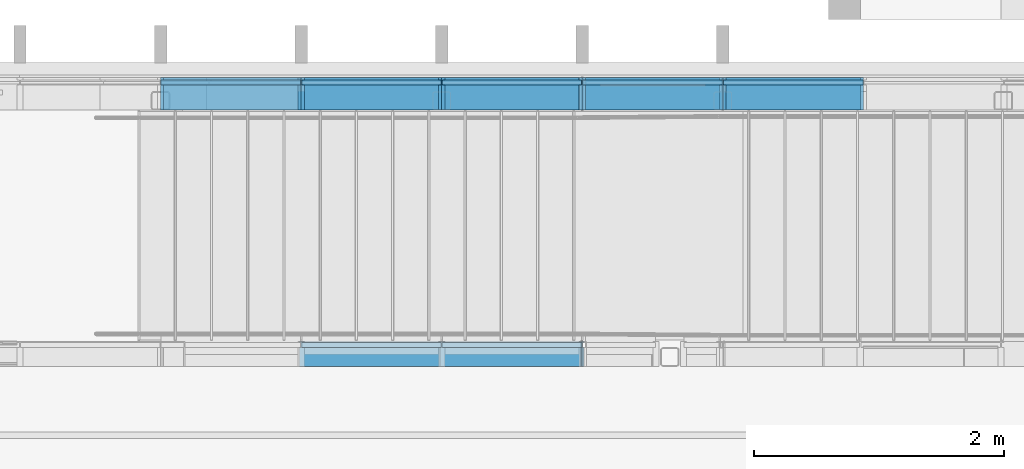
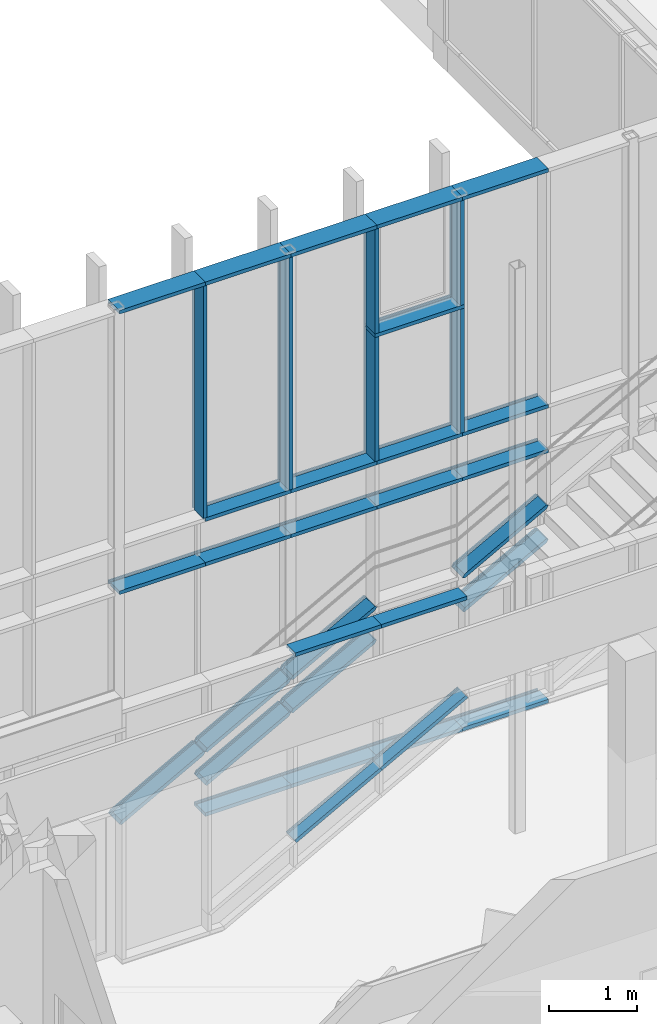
# One storey, part 3 of 301: 36 members, 2 elements without a shape of their own.
"""IFC2X3 building model written with IfcOpenShell, lengths in millimetres."""

from ifc_helpers import new_model, entity, si_unit, converted_unit, derived_unit, money_unit, direction, frame, origin_with_axes, place, context, subcontext, project, spatial, faceted_brep, source, transform, mapped, material, type_object, element, aggregate, save


model = new_model("IFC2X3")

# Units and contexts
model_context = context("Model", 3, precision=0.01, world=origin_with_axes(), true_north=direction((0.0, 1.0)))
body_context = subcontext(model_context, "Body", "Model", "MODEL_VIEW")
ifc_project = project(units=[si_unit("LENGTHUNIT", "METRE", prefix="MILLI"), si_unit("AREAUNIT", "SQUARE_METRE"), si_unit("VOLUMEUNIT", "CUBIC_METRE"), converted_unit("PLANEANGLEUNIT", "DEGREE", entity("IfcPlaneAngleMeasure", 0.0174532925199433), si_unit("PLANEANGLEUNIT", "RADIAN"), dimensions=[0, 0, 0, 0, 0, 0, 0]), money_unit("EUR"), converted_unit("TIMEUNIT", "Year", entity("IfcTimeMeasure", 31557600.0), si_unit("TIMEUNIT", "SECOND"), dimensions=[0, 0, 1, 0, 0, 0, 0]), si_unit("MASSUNIT", "GRAM", prefix="KILO"), si_unit("THERMODYNAMICTEMPERATUREUNIT", "DEGREE_CELSIUS"), si_unit("LUMINOUSINTENSITYUNIT", "LUMEN"), si_unit("ENERGYUNIT", "JOULE", prefix="MEGA"), derived_unit("THERMALCONDUCTANCEUNIT", [(si_unit("POWERUNIT", "WATT"), 1), (si_unit("LENGTHUNIT", "METRE"), -1), (si_unit("THERMODYNAMICTEMPERATUREUNIT", "KELVIN"), -1)]), derived_unit("SPECIFICHEATCAPACITYUNIT", [(si_unit("ENERGYUNIT", "JOULE"), 1), (si_unit("MASSUNIT", "GRAM", prefix="KILO"), -1), (si_unit("THERMODYNAMICTEMPERATUREUNIT", "KELVIN"), -1)]), derived_unit("MASSDENSITYUNIT", [(si_unit("MASSUNIT", "GRAM", prefix="KILO"), 1), (si_unit("VOLUMEUNIT", "CUBIC_METRE"), -1)])], contexts=[model_context])

# Site, building, storey
site_placement = place(None, frame((0.0, 0.0, 8650.0), z_axis=(0.0, 0.0, 1.0), x_axis=(1.0, 0.0, 0.0)))
site = spatial("IfcSite", under=ifc_project, at=site_placement, Name="43301:001:0844", CompositionType="ELEMENT")
building_placement = place(site_placement, origin_with_axes())
building = spatial("IfcBuilding", under=site, at=building_placement, Name="Kuressaare Ametikooli tuulikute mehaanikute õppekorpus", CompositionType="ELEMENT")
storey_placement = place(building_placement, origin_with_axes())
storey = spatial("IfcBuildingStorey", under=building, at=storey_placement, Name="1.korrus", CompositionType="ELEMENT", Elevation=0.0)

# Curtain wall, members
curtain_wall_type = type_object("IfcCurtainWallType", Name="Curtain Wall Type", PredefinedType="NOTDEFINED")
curtain_wall_1_placement = place(storey_placement, frame((116704.6026822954, 28579.57374875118, 35.00000000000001), z_axis=(0.0, 0.0, 1.0), x_axis=(1.0, 0.0, 0.0)))
curtain_wall_1 = element("IfcCurtainWall", 1, at=curtain_wall_1_placement, inside=storey, type_object=curtain_wall_type, Name="KF-1.1")
ifc_material = material(Name="Aluminium")
member_type_1 = type_object("IfcMemberType", Name="Boundary Frame 50 x 260", PredefinedType="NOTDEFINED")
shared_shape_1 = source(origin_with_axes(), body_context, "Body", "Brep", [
    faceted_brep([(5.000000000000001, -20.0, 1150.000000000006), (5.000000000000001, 20.0, 1150.000000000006), (25.0, 20.0, 1150.000000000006), (25.0, 40.00000000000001, 1150.000000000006), (-25.0, 40.00000000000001, 1150.000000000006), (-25.0, 19.99999999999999, 1150.000000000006), (-5.000000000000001, 20.0, 1150.000000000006), (-5.000000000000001, -20.0, 1150.000000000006), (-25.0, -19.99999999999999, 1150.000000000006), (-25.0, -220.0, 1150.000000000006), (25.0, -220.0, 1150.000000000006), (25.0, -20.0, 1150.000000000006), (5.000000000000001, -20.0, -25.00000000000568), (5.000000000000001, 20.0, -25.00000000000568), (25.0, 20.0, -25.00000000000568), (25.0, 40.00000000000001, -25.00000000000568), (-25.0, 40.00000000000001, -25.00000000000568), (-25.0, 19.99999999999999, -25.00000000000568), (-5.000000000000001, 20.0, -25.00000000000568), (-5.000000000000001, -20.0, -25.00000000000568), (-25.0, -19.99999999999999, -25.00000000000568), (-25.0, -220.0, -25.00000000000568), (25.0, -220.0, -25.00000000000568), (25.0, -20.0, -25.00000000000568)], [[[0, 1, 2, 3, 4, 5, 6, 7, 8, 9, 10, 11]], [[0, 12, 13, 1]], [[1, 13, 14, 2]], [[14, 15, 3, 2]], [[3, 15, 16, 4]], [[17, 5, 4, 16]], [[5, 17, 18, 6]], [[7, 6, 18, 19]], [[8, 7, 19, 20]], [[8, 20, 21, 9]], [[9, 21, 22, 10]], [[11, 10, 22, 23]], [[11, 23, 12, 0]], [[13, 12, 23, 22, 21, 20, 19, 18, 17, 16, 15, 14]]]),
])
member_1_placement = place(curtain_wall_1_placement, frame((-5062.5, 0.0, 5860.000094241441), z_axis=(-1.0, 0.0, 0.0), x_axis=(0.0, 0.0, -1.0)))
member_1 = element("IfcMember", 2, at=member_1_placement, type_object=member_type_1, material=ifc_material, context=body_context, shape_type="MappedRepresentation", body=[
    mapped(shared_shape_1, transform((0.0, 0.0, 0.0), x_axis=(-1.0, 0.0, 0.0), y_axis=(0.0, -1.0, 0.0), z_axis=(0.0, 0.0, 1.0))),
])
shared_shape_2 = source(origin_with_axes(), body_context, "Body", "Brep", [
    faceted_brep([(5.000000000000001, -20.0, 1125.0), (5.000000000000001, 20.0, 1125.0), (25.0, 20.0, 1125.0), (25.0, 40.00000000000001, 1125.0), (-25.0, 40.00000000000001, 1125.0), (-25.0, 19.99999999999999, 1125.0), (-5.000000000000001, 20.0, 1125.0), (-5.000000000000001, -20.0, 1125.0), (-25.0, -19.99999999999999, 1125.0), (-25.0, -220.0, 1125.0), (25.0, -220.0, 1125.0), (25.0, -20.0, 1125.0), (5.000000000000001, -20.0, 0.0), (5.000000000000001, 20.0, 0.0), (25.0, 20.0, 0.0), (25.0, 40.00000000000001, 0.0), (-25.0, 40.00000000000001, 0.0), (-25.0, 19.99999999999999, 0.0), (-5.000000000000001, 20.0, 0.0), (-5.000000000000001, -20.0, 0.0), (-25.0, -19.99999999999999, 0.0), (-25.0, -220.0, 0.0), (25.0, -220.0, 0.0), (25.0, -20.0, 0.0)], [[[0, 1, 2, 3, 4, 5, 6, 7, 8, 9, 10, 11]], [[0, 12, 13, 1]], [[1, 13, 14, 2]], [[14, 15, 3, 2]], [[3, 15, 16, 4]], [[17, 5, 4, 16]], [[5, 17, 18, 6]], [[7, 6, 18, 19]], [[8, 7, 19, 20]], [[8, 20, 21, 9]], [[9, 21, 22, 10]], [[11, 10, 22, 23]], [[11, 23, 12, 0]], [[13, 12, 23, 22, 21, 20, 19, 18, 17, 16, 15, 14]]]),
])
member_2_placement = place(curtain_wall_1_placement, frame((-7312.5, 0.0, 4090.0), z_axis=(1.0, 0.0, 0.0), x_axis=(0.0, 0.0, 1.0)))
member_2 = element("IfcMember", 3, at=member_2_placement, type_object=member_type_1, material=ifc_material, context=body_context, shape_type="MappedRepresentation", body=[
    mapped(shared_shape_2, transform((0.0, 0.0, 0.0), x_axis=(-1.0, 0.0, 0.0), y_axis=(0.0, -1.0, 0.0), z_axis=(0.0, 0.0, 1.0))),
])
member_3_placement = place(curtain_wall_1_placement, frame((-8437.5, 0.0, 4090.0), z_axis=(1.0, 0.0, 0.0), x_axis=(0.0, 0.0, 1.0)))
member_3 = element("IfcMember", 4, at=member_3_placement, type_object=member_type_1, material=ifc_material, context=body_context, shape_type="MappedRepresentation", body=[
    mapped(shared_shape_2, transform((0.0, 0.0, 0.0), x_axis=(-1.0, 0.0, 0.0), y_axis=(0.0, -1.0, 0.0), z_axis=(0.0, 0.0, 1.0))),
])
member_4_placement = place(curtain_wall_1_placement, frame((-6187.5, 0.0, 4090.0), z_axis=(1.0, 0.0, 0.0), x_axis=(0.0, 0.0, 1.0)))
member_4 = element("IfcMember", 5, at=member_4_placement, type_object=member_type_1, material=ifc_material, context=body_context, shape_type="MappedRepresentation", body=[
    mapped(shared_shape_2, transform((0.0, 0.0, 0.0), x_axis=(-1.0, 0.0, 0.0), y_axis=(0.0, -1.0, 0.0), z_axis=(0.0, 0.0, 1.0))),
])
member_5_placement = place(curtain_wall_1_placement, frame((-5062.5, 0.0, 4090.0), z_axis=(1.0, 0.0, 0.0), x_axis=(0.0, 0.0, 1.0)))
member_5 = element("IfcMember", 6, at=member_5_placement, type_object=member_type_1, material=ifc_material, context=body_context, shape_type="MappedRepresentation", body=[
    mapped(shared_shape_2, transform((0.0, 0.0, 0.0), x_axis=(-1.0, 0.0, 0.0), y_axis=(0.0, -1.0, 0.0), z_axis=(0.0, 0.0, 1.0))),
])
member_6_placement = place(curtain_wall_1_placement, frame((-9562.5, 0.0, 3470.000008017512), z_axis=(1.0, 0.0, 0.0), x_axis=(0.0, 0.0, 1.0)))
member_6 = element("IfcMember", 7, at=member_6_placement, type_object=member_type_1, material=ifc_material, context=body_context, shape_type="MappedRepresentation", body=[
    mapped(shared_shape_2, transform((0.0, 0.0, 0.0), x_axis=(-1.0, 0.0, 0.0), y_axis=(0.0, -1.0, 0.0), z_axis=(0.0, 0.0, 1.0))),
])
member_7_placement = place(curtain_wall_1_placement, frame((-8437.5, 0.0, 3470.000008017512), z_axis=(1.0, 0.0, 0.0), x_axis=(0.0, 0.0, 1.0)))
member_7 = element("IfcMember", 8, at=member_7_placement, type_object=member_type_1, material=ifc_material, context=body_context, shape_type="MappedRepresentation", body=[
    mapped(shared_shape_2, transform((0.0, 0.0, 0.0), x_axis=(-1.0, 0.0, 0.0), y_axis=(0.0, -1.0, 0.0), z_axis=(0.0, 0.0, 1.0))),
])
member_8_placement = place(curtain_wall_1_placement, frame((-7312.5, 0.0, 3470.000008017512), z_axis=(1.0, 0.0, 0.0), x_axis=(0.0, 0.0, 1.0)))
member_8 = element("IfcMember", 9, at=member_8_placement, type_object=member_type_1, material=ifc_material, context=body_context, shape_type="MappedRepresentation", body=[
    mapped(shared_shape_2, transform((0.0, 0.0, 0.0), x_axis=(-1.0, 0.0, 0.0), y_axis=(0.0, -1.0, 0.0), z_axis=(0.0, 0.0, 1.0))),
])
member_9_placement = place(curtain_wall_1_placement, frame((-6187.5, 0.0, 3470.000008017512), z_axis=(1.0, 0.0, 0.0), x_axis=(0.0, 0.0, 1.0)))
member_9 = element("IfcMember", 10, at=member_9_placement, type_object=member_type_1, material=ifc_material, context=body_context, shape_type="MappedRepresentation", body=[
    mapped(shared_shape_2, transform((0.0, 0.0, 0.0), x_axis=(-1.0, 0.0, 0.0), y_axis=(0.0, -1.0, 0.0), z_axis=(0.0, 0.0, 1.0))),
])
member_10_placement = place(curtain_wall_1_placement, frame((-5062.5, 0.0, 3470.000008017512), z_axis=(1.0, 0.0, 0.0), x_axis=(0.0, 0.0, 1.0)))
member_10 = element("IfcMember", 11, at=member_10_placement, type_object=member_type_1, material=ifc_material, context=body_context, shape_type="MappedRepresentation", body=[
    mapped(shared_shape_2, transform((0.0, 0.0, 0.0), x_axis=(-1.0, 0.0, 0.0), y_axis=(0.0, -1.0, 0.0), z_axis=(0.0, 0.0, 1.0))),
])
member_type_2 = type_object("IfcMemberType", Name="Mullion Frame 50 x 260", PredefinedType="NOTDEFINED")
shared_shape_3 = source(origin_with_axes(), body_context, "Body", "Brep", [
    faceted_brep([(5.000000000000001, -20.0, 1272.070304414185), (5.000000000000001, 20.0, 1272.070304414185), (24.99999999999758, 19.99999999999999, 1238.434096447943), (24.99999999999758, 40.00000000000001, 1238.434096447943), (0.0, 40.00000000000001, 1280.479356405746), (0.0, -220.0, 1280.479356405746), (24.99999999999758, -220.0, 1238.434096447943), (24.99999999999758, -19.99999999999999, 1238.434096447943), (5.000000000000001, -20.0, 2.972986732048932), (5.000000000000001, 20.0, 2.972986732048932), (24.9999999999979, 20.0, 14.86493366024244), (24.9999999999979, 40.00000000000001, 14.86493366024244), (0.0, 40.00000000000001, 0.0), (-24.99999999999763, 40.00000000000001, 42.0452599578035), (-24.99999999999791, 40.00000000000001, 1265.614422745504), (-24.99999999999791, 20.0, 1265.614422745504), (-5.000000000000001, 20.0, 1277.506369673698), (-5.000000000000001, -20.0, 1277.506369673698), (-24.99999999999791, -20.0, 1265.614422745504), (-24.99999999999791, -220.0, 1265.614422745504), (0.0, -220.0, 0.0), (24.9999999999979, -220.0, 14.86493366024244), (-24.99999999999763, -220.0, 42.0452599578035), (24.9999999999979, -20.0, 14.86493366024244), (-24.99999999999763, -19.99999999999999, 42.0452599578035), (-5.000000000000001, -20.0, 8.409051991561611), (-5.000000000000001, 20.0, 8.409051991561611), (-24.99999999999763, 19.99999999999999, 42.0452599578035)], [[[0, 1, 2, 3, 4, 5, 6, 7]], [[0, 8, 9, 1]], [[1, 9, 10, 2]], [[10, 11, 3, 2]], [[12, 13, 14, 4, 3, 11]], [[5, 4, 14, 15, 16, 17, 18, 19]], [[20, 21, 6, 5, 19, 22]], [[7, 6, 21, 23]], [[7, 23, 8, 0]], [[9, 8, 23, 21, 20, 12, 11, 10]], [[13, 12, 20, 22, 24, 25, 26, 27]], [[27, 15, 14, 13]], [[15, 27, 26, 16]], [[17, 16, 26, 25]], [[18, 17, 25, 24]], [[18, 24, 22, 19]]]),
])
member_11_placement = place(curtain_wall_1_placement, frame((-3937.5, 0.0, 2715.380247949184), z_axis=(-0.8785772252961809, 0.0, -0.4776003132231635), x_axis=(0.4776003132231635, 0.0, -0.8785772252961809)))
member_11 = element("IfcMember", 12, at=member_11_placement, type_object=member_type_2, material=ifc_material, context=body_context, shape_type="MappedRepresentation", body=[
    mapped(shared_shape_3, transform((0.0, 0.0, 0.0), x_axis=(-1.0, 0.0, 0.0), y_axis=(0.0, -1.0, 0.0), z_axis=(0.0, 0.0, 1.0))),
])
member_12_placement = place(curtain_wall_1_placement, frame((-3937.5, 0.0, 2246.885324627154), z_axis=(-0.8785772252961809, 0.0, -0.4776003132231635), x_axis=(0.4776003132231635, 0.0, -0.8785772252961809)))
member_12 = element("IfcMember", 13, at=member_12_placement, type_object=member_type_2, material=ifc_material, context=body_context, shape_type="MappedRepresentation", body=[
    mapped(shared_shape_3, transform((0.0, 0.0, 0.0), x_axis=(-1.0, 0.0, 0.0), y_axis=(0.0, -1.0, 0.0), z_axis=(0.0, 0.0, 1.0))),
])
shared_shape_4 = source(origin_with_axes(), body_context, "Body", "Brep", [
    faceted_brep([(-5.000000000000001, -20.0, 1125.0), (-25.0, -19.99999999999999, 1125.0), (-25.0, -220.0, 1125.0), (25.0, -220.0, 1125.0), (25.0, 40.00000000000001, 1125.0), (-25.0, 40.00000000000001, 1125.0), (-25.0, 19.99999999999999, 1125.0), (-5.000000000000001, 20.0, 1125.0), (-5.000000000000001, -20.0, 0.0), (-25.0, -19.99999999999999, 0.0), (-25.0, -220.0, 0.0), (25.0, -220.0, 0.0), (25.0, 40.00000000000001, 0.0), (-25.0, 40.00000000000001, 0.0), (-25.0, 19.99999999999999, 0.0), (-5.000000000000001, 20.0, 0.0)], [[[0, 1, 2, 3, 4, 5, 6, 7]], [[0, 8, 9, 1]], [[9, 10, 2, 1]], [[10, 11, 3, 2]], [[11, 12, 4, 3]], [[12, 13, 5, 4]], [[6, 5, 13, 14]], [[14, 15, 7, 6]], [[7, 15, 8, 0]], [[8, 15, 14, 13, 12, 11, 10, 9]]]),
])
member_13_placement = place(curtain_wall_1_placement, frame((-8437.5, 0.0, 0.0), z_axis=(1.0, 0.0, 0.0), x_axis=(0.0, 0.0, 1.0)))
member_13 = element("IfcMember", 14, at=member_13_placement, type_object=member_type_1, material=ifc_material, context=body_context, shape_type="MappedRepresentation", body=[
    mapped(shared_shape_4, transform((0.0, 0.0, 0.0), x_axis=(-1.0, 0.0, 0.0), y_axis=(0.0, -1.0, 0.0), z_axis=(0.0, 0.0, 1.0))),
])
member_14_placement = place(curtain_wall_1_placement, frame((-7312.5, 0.0, 0.0), z_axis=(1.0, 0.0, 0.0), x_axis=(0.0, 0.0, 1.0)))
member_14 = element("IfcMember", 15, at=member_14_placement, type_object=member_type_1, material=ifc_material, context=body_context, shape_type="MappedRepresentation", body=[
    mapped(shared_shape_4, transform((0.0, 0.0, 0.0), x_axis=(-1.0, 0.0, 0.0), y_axis=(0.0, -1.0, 0.0), z_axis=(0.0, 0.0, 1.0))),
])
member_15_placement = place(curtain_wall_1_placement, frame((-6187.5, 0.0, 0.0), z_axis=(1.0, 0.0, 0.0), x_axis=(0.0, 0.0, 1.0)))
member_15 = element("IfcMember", 16, at=member_15_placement, type_object=member_type_1, material=ifc_material, context=body_context, shape_type="MappedRepresentation", body=[
    mapped(shared_shape_4, transform((0.0, 0.0, 0.0), x_axis=(-1.0, 0.0, 0.0), y_axis=(0.0, -1.0, 0.0), z_axis=(0.0, 0.0, 1.0))),
])
member_16_placement = place(curtain_wall_1_placement, frame((-5062.5, 0.0, 0.0), z_axis=(1.0, 0.0, 0.0), x_axis=(0.0, 0.0, 1.0)))
member_16 = element("IfcMember", 17, at=member_16_placement, type_object=member_type_1, material=ifc_material, context=body_context, shape_type="MappedRepresentation", body=[
    mapped(shared_shape_4, transform((0.0, 0.0, 0.0), x_axis=(-1.0, 0.0, 0.0), y_axis=(0.0, -1.0, 0.0), z_axis=(0.0, 0.0, 1.0))),
])
member_17_placement = place(curtain_wall_1_placement, frame((-8437.5, 0.0, 7359.99994565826), z_axis=(-1.0, 0.0, 0.0), x_axis=(0.0, 0.0, -1.0)))
member_17 = element("IfcMember", 18, at=member_17_placement, type_object=member_type_1, material=ifc_material, context=body_context, shape_type="MappedRepresentation", body=[
    mapped(shared_shape_4, transform((0.0, 0.0, 0.0), x_axis=(-1.0, 0.0, 0.0), y_axis=(0.0, -1.0, 0.0), z_axis=(0.0, 0.0, 1.0))),
])
member_18_placement = place(curtain_wall_1_placement, frame((-7312.5, 0.0, 7359.99994565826), z_axis=(-1.0, 0.0, 0.0), x_axis=(0.0, 0.0, -1.0)))
member_18 = element("IfcMember", 19, at=member_18_placement, type_object=member_type_1, material=ifc_material, context=body_context, shape_type="MappedRepresentation", body=[
    mapped(shared_shape_4, transform((0.0, 0.0, 0.0), x_axis=(-1.0, 0.0, 0.0), y_axis=(0.0, -1.0, 0.0), z_axis=(0.0, 0.0, 1.0))),
])
member_19_placement = place(curtain_wall_1_placement, frame((-5062.5, 0.0, 7359.99994565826), z_axis=(-1.0, 0.0, 0.0), x_axis=(0.0, 0.0, -1.0)))
member_19 = element("IfcMember", 20, at=member_19_placement, type_object=member_type_1, material=ifc_material, context=body_context, shape_type="MappedRepresentation", body=[
    mapped(shared_shape_4, transform((0.0, 0.0, 0.0), x_axis=(-1.0, 0.0, 0.0), y_axis=(0.0, -1.0, 0.0), z_axis=(0.0, 0.0, 1.0))),
])
member_20_placement = place(curtain_wall_1_placement, frame((-6187.5, 0.0, 7359.99994565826), z_axis=(-1.0, 0.0, 0.0), x_axis=(0.0, 0.0, -1.0)))
member_20 = element("IfcMember", 21, at=member_20_placement, type_object=member_type_1, material=ifc_material, context=body_context, shape_type="MappedRepresentation", body=[
    mapped(shared_shape_4, transform((0.0, 0.0, 0.0), x_axis=(-1.0, 0.0, 0.0), y_axis=(0.0, -1.0, 0.0), z_axis=(0.0, 0.0, 1.0))),
])
member_21_placement = place(curtain_wall_1_placement, frame((-3937.5, 0.0, 7359.99994565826), z_axis=(-1.0, 0.0, 0.0), x_axis=(0.0, 0.0, -1.0)))
member_21 = element("IfcMember", 22, at=member_21_placement, type_object=member_type_1, material=ifc_material, context=body_context, shape_type="MappedRepresentation", body=[
    mapped(shared_shape_4, transform((0.0, 0.0, 0.0), x_axis=(-1.0, 0.0, 0.0), y_axis=(0.0, -1.0, 0.0), z_axis=(0.0, 0.0, 1.0))),
])
shared_shape_5 = source(origin_with_axes(), body_context, "Body", "Brep", [
    faceted_brep([(5.000000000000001, -20.0, 1272.11511125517), (5.000000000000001, 20.0, 1272.11511125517), (24.99999999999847, 19.99999999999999, 1238.47640461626), (24.99999999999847, 40.00000000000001, 1238.47640461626), (0.0, 40.00000000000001, 1280.524787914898), (0.0, -220.0, 1280.524787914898), (24.99999999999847, -220.0, 1238.47640461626), (24.99999999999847, -19.99999999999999, 1238.47640461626), (5.000000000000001, -20.0, 2.972765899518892), (5.000000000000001, 20.0, 2.972765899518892), (24.99999999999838, 20.0, 14.86382949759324), (24.99999999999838, 40.00000000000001, 14.86382949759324), (0.0, 40.00000000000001, 0.0), (-24.99999999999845, 40.00000000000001, 42.04838329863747), (-24.99999999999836, 40.00000000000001, 1265.660958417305), (-24.99999999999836, 20.0, 1265.660958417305), (-5.000000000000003, 20.0, 1277.552022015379), (-5.000000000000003, -20.0, 1277.552022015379), (-24.99999999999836, -20.0, 1265.660958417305), (-24.99999999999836, -220.0, 1265.660958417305), (0.0, -220.0, 0.0), (24.99999999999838, -220.0, 14.86382949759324), (-24.99999999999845, -220.0, 42.04838329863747), (24.99999999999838, -20.0, 14.86382949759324), (-24.99999999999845, -19.99999999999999, 42.04838329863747), (-5.000000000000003, -20.0, 8.409676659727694), (-5.000000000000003, 20.0, 8.409676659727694), (-24.99999999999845, 19.99999999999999, 42.04838329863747)], [[[0, 1, 2, 3, 4, 5, 6, 7]], [[0, 8, 9, 1]], [[1, 9, 10, 2]], [[10, 11, 3, 2]], [[12, 13, 14, 4, 3, 11]], [[5, 4, 14, 15, 16, 17, 18, 19]], [[20, 21, 6, 5, 19, 22]], [[7, 6, 21, 23]], [[7, 23, 8, 0]], [[9, 8, 23, 21, 20, 12, 11, 10]], [[13, 12, 20, 22, 24, 25, 26, 27]], [[27, 15, 14, 13]], [[15, 27, 26, 16]], [[17, 16, 26, 25]], [[18, 17, 25, 24]], [[18, 24, 22, 19]]]),
])
member_22_placement = place(curtain_wall_1_placement, frame((-6187.5, 0.0, 2095.05079351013), z_axis=(-0.8785460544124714, 0.0, -0.4776576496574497), x_axis=(0.4776576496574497, 0.0, -0.8785460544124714)))
member_22 = element("IfcMember", 23, at=member_22_placement, type_object=member_type_2, material=ifc_material, context=body_context, shape_type="MappedRepresentation", body=[
    mapped(shared_shape_5, transform((0.0, 0.0, 0.0), x_axis=(-1.0, 0.0, 0.0), y_axis=(0.0, -1.0, 0.0), z_axis=(0.0, 0.0, 1.0))),
])
member_23_placement = place(curtain_wall_1_placement, frame((-6187.5, 0.0, 1635.327982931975), z_axis=(-0.8785460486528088, 0.0, -0.4776576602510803), x_axis=(0.4776576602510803, 0.0, -0.8785460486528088)))
member_23 = element("IfcMember", 24, at=member_23_placement, type_object=member_type_2, material=ifc_material, context=body_context, shape_type="MappedRepresentation", body=[
    mapped(shared_shape_5, transform((0.0, 0.0, 0.0), x_axis=(-1.0, 0.0, 0.0), y_axis=(0.0, -1.0, 0.0), z_axis=(0.0, 0.0, 1.0))),
])
member_24_placement = place(curtain_wall_1_placement, frame((-7312.5, 0.0, 1483.398332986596), z_axis=(-0.8785460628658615, 0.0, -0.4776576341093), x_axis=(0.4776576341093, 0.0, -0.8785460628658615)))
member_24 = element("IfcMember", 25, at=member_24_placement, type_object=member_type_2, material=ifc_material, context=body_context, shape_type="MappedRepresentation", body=[
    mapped(shared_shape_5, transform((0.0, 0.0, 0.0), x_axis=(-1.0, 0.0, 0.0), y_axis=(0.0, -1.0, 0.0), z_axis=(0.0, 0.0, 1.0))),
])
member_25_placement = place(curtain_wall_1_placement, frame((-7312.5, 0.0, 1023.6755048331), z_axis=(-0.8785460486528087, 0.0, -0.4776576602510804), x_axis=(0.4776576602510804, 0.0, -0.8785460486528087)))
member_25 = element("IfcMember", 26, at=member_25_placement, type_object=member_type_2, material=ifc_material, context=body_context, shape_type="MappedRepresentation", body=[
    mapped(shared_shape_5, transform((0.0, 0.0, 0.0), x_axis=(-1.0, 0.0, 0.0), y_axis=(0.0, -1.0, 0.0), z_axis=(0.0, 0.0, 1.0))),
])
member_26_placement = place(curtain_wall_1_placement, frame((-8437.5, 0.0, 871.7458982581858), z_axis=(-0.8785460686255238, 0.0, -0.4776576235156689), x_axis=(0.4776576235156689, 0.0, -0.8785460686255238)))
member_26 = element("IfcMember", 27, at=member_26_placement, type_object=member_type_2, material=ifc_material, context=body_context, shape_type="MappedRepresentation", body=[
    mapped(shared_shape_5, transform((0.0, 0.0, 0.0), x_axis=(-1.0, 0.0, 0.0), y_axis=(0.0, -1.0, 0.0), z_axis=(0.0, 0.0, 1.0))),
])
shared_shape_6 = source(origin_with_axes(), body_context, "Body", "Brep", [
    faceted_brep([(5.000000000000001, -20.0, 3244.99994565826), (5.000000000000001, 20.0, 3244.99994565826), (25.0, 19.99999999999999, 3244.99994565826), (25.0, 40.00000000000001, 3244.99994565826), (-25.0, 40.00000000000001, 3244.99994565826), (-25.0, 20.0, 3244.99994565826), (-5.000000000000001, 20.0, 3244.99994565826), (-5.000000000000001, -20.0, 3244.99994565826), (-25.0, -20.0, 3244.99994565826), (-25.0, -220.0, 3244.99994565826), (25.0, -220.0, 3244.99994565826), (25.0, -19.99999999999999, 3244.99994565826), (5.000000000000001, -20.0, 25.00000000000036), (5.000000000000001, 20.0, 25.00000000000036), (25.0, 20.0, 25.00000000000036), (25.0, 40.00000000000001, 25.00000000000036), (-25.0, 40.00000000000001, 25.00000000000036), (-25.0, 19.99999999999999, 25.00000000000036), (-5.000000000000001, 20.0, 25.00000000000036), (-5.000000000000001, -20.0, 25.00000000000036), (-25.0, -19.99999999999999, 25.00000000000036), (-25.0, -220.0, 25.00000000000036), (25.0, -220.0, 25.00000000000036), (25.0, -20.0, 25.00000000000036)], [[[0, 1, 2, 3, 4, 5, 6, 7, 8, 9, 10, 11]], [[0, 12, 13, 1]], [[1, 13, 14, 2]], [[14, 15, 3, 2]], [[4, 3, 15, 16]], [[17, 5, 4, 16]], [[5, 17, 18, 6]], [[7, 6, 18, 19]], [[8, 7, 19, 20]], [[8, 20, 21, 9]], [[10, 9, 21, 22]], [[11, 10, 22, 23]], [[11, 23, 12, 0]], [[13, 12, 23, 22, 21, 20, 19, 18, 17, 16, 15, 14]]]),
])
member_27_placement = place(curtain_wall_1_placement, frame((-8437.5, 0.0, 4090.0), z_axis=(0.0, 0.0, 1.0), x_axis=(-1.0, 0.0, 0.0)))
member_27 = element("IfcMember", 28, at=member_27_placement, type_object=member_type_2, material=ifc_material, context=body_context, shape_type="MappedRepresentation", body=[
    mapped(shared_shape_6, transform((0.0, 0.0, 0.0), x_axis=(-1.0, 0.0, 0.0), y_axis=(0.0, -1.0, 0.0), z_axis=(0.0, 0.0, 1.0))),
])
member_28_placement = place(curtain_wall_1_placement, frame((-7312.5, 0.0, 4090.0), z_axis=(0.0, 0.0, 1.0), x_axis=(-1.0, 0.0, 0.0)))
member_28 = element("IfcMember", 29, at=member_28_placement, type_object=member_type_2, material=ifc_material, context=body_context, shape_type="MappedRepresentation", body=[
    mapped(shared_shape_6, transform((0.0, 0.0, 0.0), x_axis=(-1.0, 0.0, 0.0), y_axis=(0.0, -1.0, 0.0), z_axis=(0.0, 0.0, 1.0))),
])
shared_shape_7 = source(origin_with_axes(), body_context, "Body", "Brep", [
    faceted_brep([(5.000000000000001, -20.0, 1474.999851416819), (5.000000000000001, 20.0, 1474.999851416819), (25.0, 19.99999999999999, 1474.999851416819), (25.0, 40.00000000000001, 1474.999851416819), (-25.0, 40.00000000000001, 1474.999851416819), (-25.0, 20.0, 1474.999851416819), (-5.000000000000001, 20.0, 1474.999851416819), (-5.000000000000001, -20.0, 1474.999851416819), (-25.0, -20.0, 1474.999851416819), (-25.0, -220.0, 1474.999851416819), (25.0, -220.0, 1474.999851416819), (25.0, -19.99999999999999, 1474.999851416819), (5.000000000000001, -20.0, 25.00000000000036), (5.000000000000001, 20.0, 25.00000000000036), (25.0, 20.0, 25.00000000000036), (25.0, 40.00000000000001, 25.00000000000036), (-25.0, 40.00000000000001, 25.00000000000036), (-25.0, 19.99999999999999, 25.00000000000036), (-5.000000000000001, 20.0, 25.00000000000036), (-5.000000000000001, -20.0, 25.00000000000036), (-25.0, -19.99999999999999, 25.00000000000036), (-25.0, -220.0, 25.00000000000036), (25.0, -220.0, 25.00000000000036), (25.0, -20.0, 25.00000000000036)], [[[0, 1, 2, 3, 4, 5, 6, 7, 8, 9, 10, 11]], [[0, 12, 13, 1]], [[1, 13, 14, 2]], [[14, 15, 3, 2]], [[4, 3, 15, 16]], [[17, 5, 4, 16]], [[5, 17, 18, 6]], [[7, 6, 18, 19]], [[8, 7, 19, 20]], [[8, 20, 21, 9]], [[10, 9, 21, 22]], [[11, 10, 22, 23]], [[11, 23, 12, 0]], [[13, 12, 23, 22, 21, 20, 19, 18, 17, 16, 15, 14]]]),
])
member_29_placement = place(curtain_wall_1_placement, frame((-6187.5, 0.0, 5860.000094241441), z_axis=(0.0, 0.0, 1.0), x_axis=(-1.0, 0.0, 0.0)))
member_29 = element("IfcMember", 30, at=member_29_placement, type_object=member_type_2, material=ifc_material, context=body_context, shape_type="MappedRepresentation", body=[
    mapped(shared_shape_7, transform((0.0, 0.0, 0.0), x_axis=(-1.0, 0.0, 0.0), y_axis=(0.0, -1.0, 0.0), z_axis=(0.0, 0.0, 1.0))),
])
member_30_placement = place(curtain_wall_1_placement, frame((-5062.5, 0.0, 5860.000094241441), z_axis=(0.0, 0.0, 1.0), x_axis=(-1.0, 0.0, 0.0)))
member_30 = element("IfcMember", 31, at=member_30_placement, type_object=member_type_2, material=ifc_material, context=body_context, shape_type="MappedRepresentation", body=[
    mapped(shared_shape_7, transform((0.0, 0.0, 0.0), x_axis=(-1.0, 0.0, 0.0), y_axis=(0.0, -1.0, 0.0), z_axis=(0.0, 0.0, 1.0))),
])
shared_shape_8 = source(origin_with_axes(), body_context, "Body", "Brep", [
    faceted_brep([(5.000000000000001, -20.0, 1745.000094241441), (5.000000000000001, 20.0, 1745.000094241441), (25.0, 19.99999999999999, 1745.000094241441), (25.0, 40.00000000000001, 1745.000094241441), (-25.0, 40.00000000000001, 1745.000094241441), (-25.0, 20.0, 1745.000094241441), (-5.000000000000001, 20.0, 1745.000094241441), (-5.000000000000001, -20.0, 1745.000094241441), (-25.0, -20.0, 1745.000094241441), (-25.0, -220.0, 1745.000094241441), (25.0, -220.0, 1745.000094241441), (25.0, -19.99999999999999, 1745.000094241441), (5.000000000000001, -20.0, 25.00000000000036), (5.000000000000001, 20.0, 25.00000000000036), (25.0, 20.0, 25.00000000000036), (25.0, 40.00000000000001, 25.00000000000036), (-25.0, 40.00000000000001, 25.00000000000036), (-25.0, 19.99999999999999, 25.00000000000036), (-5.000000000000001, 20.0, 25.00000000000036), (-5.000000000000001, -20.0, 25.00000000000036), (-25.0, -19.99999999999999, 25.00000000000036), (-25.0, -220.0, 25.00000000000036), (25.0, -220.0, 25.00000000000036), (25.0, -20.0, 25.00000000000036)], [[[0, 1, 2, 3, 4, 5, 6, 7, 8, 9, 10, 11]], [[0, 12, 13, 1]], [[1, 13, 14, 2]], [[14, 15, 3, 2]], [[4, 3, 15, 16]], [[17, 5, 4, 16]], [[5, 17, 18, 6]], [[7, 6, 18, 19]], [[8, 7, 19, 20]], [[8, 20, 21, 9]], [[10, 9, 21, 22]], [[11, 10, 22, 23]], [[11, 23, 12, 0]], [[13, 12, 23, 22, 21, 20, 19, 18, 17, 16, 15, 14]]]),
])
member_31_placement = place(curtain_wall_1_placement, frame((-5062.5, 0.0, 4090.0), z_axis=(0.0, 0.0, 1.0), x_axis=(-1.0, 0.0, 0.0)))
member_31 = element("IfcMember", 32, at=member_31_placement, type_object=member_type_2, material=ifc_material, context=body_context, shape_type="MappedRepresentation", body=[
    mapped(shared_shape_8, transform((0.0, 0.0, 0.0), x_axis=(-1.0, 0.0, 0.0), y_axis=(0.0, -1.0, 0.0), z_axis=(0.0, 0.0, 1.0))),
])
member_32_placement = place(curtain_wall_1_placement, frame((-6187.5, 0.0, 4090.0), z_axis=(0.0, 0.0, 1.0), x_axis=(-1.0, 0.0, 0.0)))
member_32 = element("IfcMember", 33, at=member_32_placement, type_object=member_type_2, material=ifc_material, context=body_context, shape_type="MappedRepresentation", body=[
    mapped(shared_shape_8, transform((0.0, 0.0, 0.0), x_axis=(-1.0, 0.0, 0.0), y_axis=(0.0, -1.0, 0.0), z_axis=(0.0, 0.0, 1.0))),
])
aggregate(curtain_wall_1, [member_11, member_12, member_13, member_14, member_15, member_16, member_2, member_3, member_4, member_5, member_22, member_23, member_24, member_25, member_26, member_6, member_7, member_8, member_9, member_10, member_29, member_27, member_17, member_18, member_28, member_19, member_30, member_20, member_21, member_1, member_31, member_32])

curtain_wall_2_placement = place(storey_placement, frame((105155.4360221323, 26479.57374875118, 34.99996632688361), z_axis=(0.0, 0.0, 1.0), x_axis=(1.0, 0.0, 0.0)))
curtain_wall_2 = element("IfcCurtainWall", 34, at=curtain_wall_2_placement, inside=storey, type_object=curtain_wall_type, Name="SKF-1.1,EI60")
member_type_3 = type_object("IfcMemberType", Name="Boundary Frame 50 x 200", PredefinedType="NOTDEFINED")
shared_shape_9 = source(origin_with_axes(), body_context, "Body", "Brep", [
    faceted_brep([(-5.000000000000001, -20.0, 1125.0), (-25.0, -19.99999999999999, 1125.0), (-25.0, -170.0, 1125.0), (25.0, -170.0, 1125.0), (25.0, 30.0, 1125.0), (-25.0, 30.0, 1125.0), (-25.0, 19.99999999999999, 1125.0), (-5.000000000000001, 20.0, 1125.0), (-5.000000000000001, -20.0, 0.0), (-25.0, -19.99999999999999, 0.0), (-25.0, -170.0, 0.0), (25.0, -170.0, 0.0), (25.0, 30.0, 0.0), (-25.0, 30.0, 0.0), (-25.0, 19.99999999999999, 0.0), (-5.000000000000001, 20.0, 0.0)], [[[0, 1, 2, 3, 4, 5, 6, 7]], [[0, 8, 9, 1]], [[9, 10, 2, 1]], [[10, 11, 3, 2]], [[11, 12, 4, 3]], [[12, 13, 5, 4]], [[6, 5, 13, 14]], [[14, 15, 7, 6]], [[7, 15, 8, 0]], [[8, 15, 14, 13, 12, 11, 10, 9]]]),
])
member_33_placement = place(curtain_wall_2_placement, frame((4236.66666016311, 0.0, 3459.999957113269), z_axis=(-1.0, 0.0, 0.0), x_axis=(0.0, 0.0, -1.0)))
member_33 = element("IfcMember", 35, at=member_33_placement, type_object=member_type_3, material=ifc_material, context=body_context, shape_type="MappedRepresentation", body=[
    mapped(shared_shape_9, transform((0.0, 0.0, 0.0), x_axis=(-1.0, 0.0, 0.0), y_axis=(0.0, -1.0, 0.0), z_axis=(0.0, 0.0, 1.0))),
])
member_34_placement = place(curtain_wall_2_placement, frame((5361.66666016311, 0.0, 3459.999957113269), z_axis=(-1.0, 0.0, 0.0), x_axis=(0.0, 0.0, -1.0)))
member_34 = element("IfcMember", 36, at=member_34_placement, type_object=member_type_3, material=ifc_material, context=body_context, shape_type="MappedRepresentation", body=[
    mapped(shared_shape_9, transform((0.0, 0.0, 0.0), x_axis=(-1.0, 0.0, 0.0), y_axis=(0.0, -1.0, 0.0), z_axis=(0.0, 0.0, 1.0))),
])
shared_shape_10 = source(origin_with_axes(), body_context, "Body", "Brep", [
    faceted_brep([(5.000000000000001, -20.0, 1280.565356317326), (5.000000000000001, 20.0, 1280.565356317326), (25.0, 20.0, 1280.565356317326), (25.0, 30.0, 1280.565356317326), (-25.0, 30.0, 1280.565356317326), (-25.0, 19.99999999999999, 1280.565356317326), (-5.000000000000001, 20.0, 1280.565356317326), (-5.000000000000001, -20.0, 1280.565356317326), (-25.0, -19.99999999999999, 1280.565356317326), (-25.0, -170.0, 1280.565356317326), (25.0, -170.0, 1280.565356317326), (25.0, -20.0, 1280.565356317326), (5.000000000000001, -20.0, 0.0), (5.000000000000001, 20.0, 0.0), (25.0, 20.0, 0.0), (25.0, 30.0, 0.0), (-25.0, 30.0, 0.0), (-25.0, 19.99999999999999, 0.0), (-5.000000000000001, 20.0, 0.0), (-5.000000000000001, -20.0, 0.0), (-25.0, -19.99999999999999, 0.0), (-25.0, -170.0, 0.0), (25.0, -170.0, 0.0), (25.0, -20.0, 0.0)], [[[0, 1, 2, 3, 4, 5, 6, 7, 8, 9, 10, 11]], [[0, 12, 13, 1]], [[1, 13, 14, 2]], [[14, 15, 3, 2]], [[3, 15, 16, 4]], [[17, 5, 4, 16]], [[5, 17, 18, 6]], [[7, 6, 18, 19]], [[8, 7, 19, 20]], [[8, 20, 21, 9]], [[9, 21, 22, 10]], [[11, 10, 22, 23]], [[11, 23, 12, 0]], [[13, 12, 23, 22, 21, 20, 19, 18, 17, 16, 15, 14]]]),
])
member_35_placement = place(curtain_wall_2_placement, frame((3111.66666016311, 0.0, 871.6400495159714), z_axis=(0.8785181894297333, 0.0, 0.4777088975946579), x_axis=(-0.4777088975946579, 0.0, 0.8785181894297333)))
member_35 = element("IfcMember", 37, at=member_35_placement, type_object=member_type_3, material=ifc_material, context=body_context, shape_type="MappedRepresentation", body=[
    mapped(shared_shape_10, transform((0.0, 0.0, 0.0), x_axis=(-1.0, 0.0, 0.0), y_axis=(0.0, -1.0, 0.0), z_axis=(0.0, 0.0, 1.0))),
])
member_36_placement = place(curtain_wall_2_placement, frame((4236.66666016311, 0.0, 1483.37753686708), z_axis=(0.8785182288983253, 0.0, 0.4777088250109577), x_axis=(-0.4777088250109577, 0.0, 0.8785182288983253)))
member_36 = element("IfcMember", 38, at=member_36_placement, type_object=member_type_3, material=ifc_material, context=body_context, shape_type="MappedRepresentation", body=[
    mapped(shared_shape_10, transform((0.0, 0.0, 0.0), x_axis=(-1.0, 0.0, 0.0), y_axis=(0.0, -1.0, 0.0), z_axis=(0.0, 0.0, 1.0))),
])
aggregate(curtain_wall_2, [member_33, member_34, member_35, member_36])

save(model, "model.ifc")
